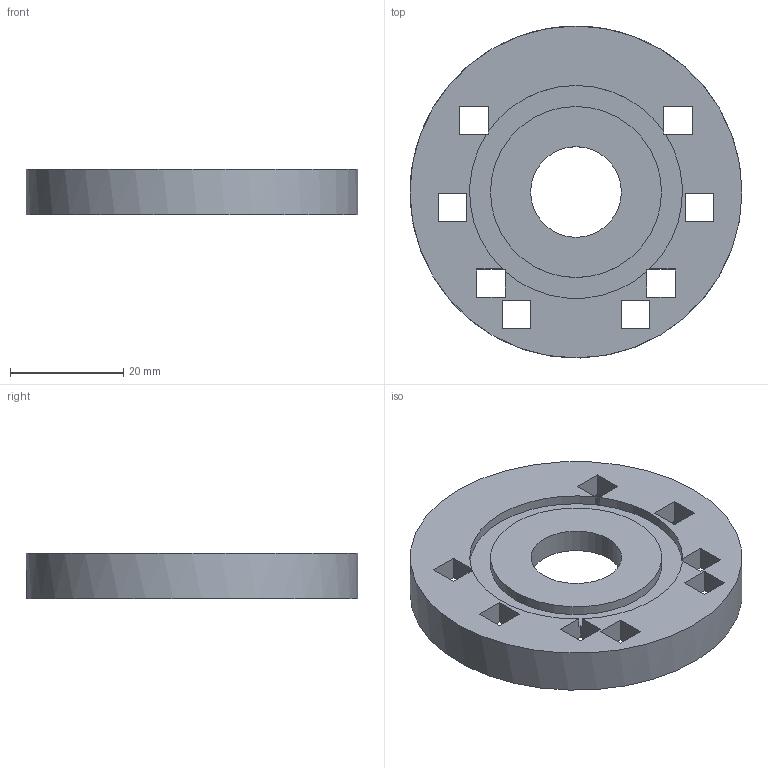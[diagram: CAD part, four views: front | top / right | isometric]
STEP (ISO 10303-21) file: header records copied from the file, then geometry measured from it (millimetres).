
FILE_DESCRIPTION(('Open CASCADE Model'),'2;1');
FILE_NAME('Open CASCADE Shape Model','2026-11-18T16:59:36',('Author'),( 'Open CASCADE'),'Open CASCADE STEP processor 7.9','Open CASCADE 7.9' ,'Unknown');
FILE_SCHEMA(('AUTOMOTIVE_DESIGN { 1 0 10303 214 1 1 1 1 }'));
Length unit declared in the file: millimetre
Products named in the file (1): Open CASCADE STEP translator 7.9 9
Bounding box: 58.6 x 58.6 x 8 mm (x, y, z)
Volume: 11429 mm3; surface area: 7926.6 mm2
Topology: 1 solids, 1 shells, 55 faces, 183 edges, 122 vertices
Faces by surface type: plane 41, cylinder 14
Full cylindrical faces by diameter (mm): 16 x1, 30.2 x1, 58.6 x1
Entity records: 4251 total; most frequent: CARTESIAN_POINT 987, DIRECTION 486, ORIENTED_EDGE 366, PCURVE 366, DEFINITIONAL_REPRESENTATION 366, LINE 295, VECTOR 295, B_SPLINE_CURVE_WITH_KNOTS 194
